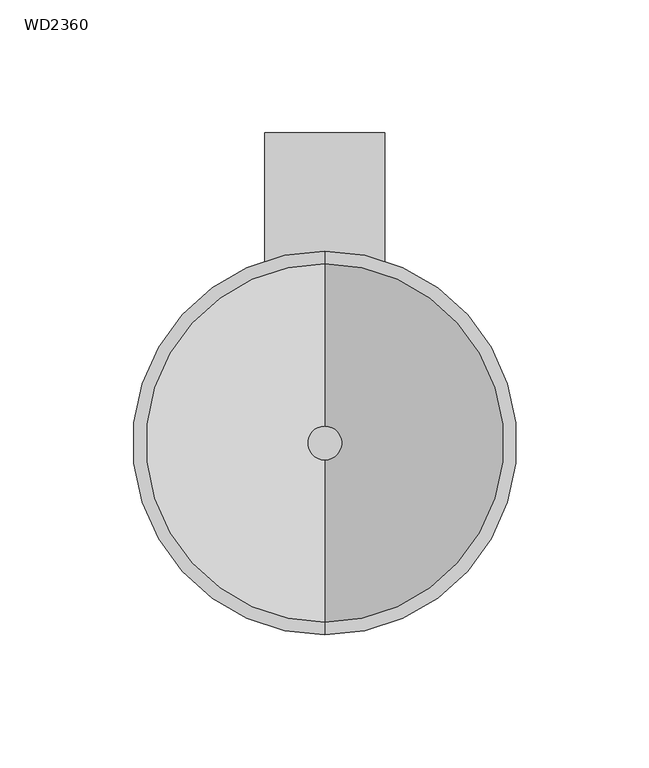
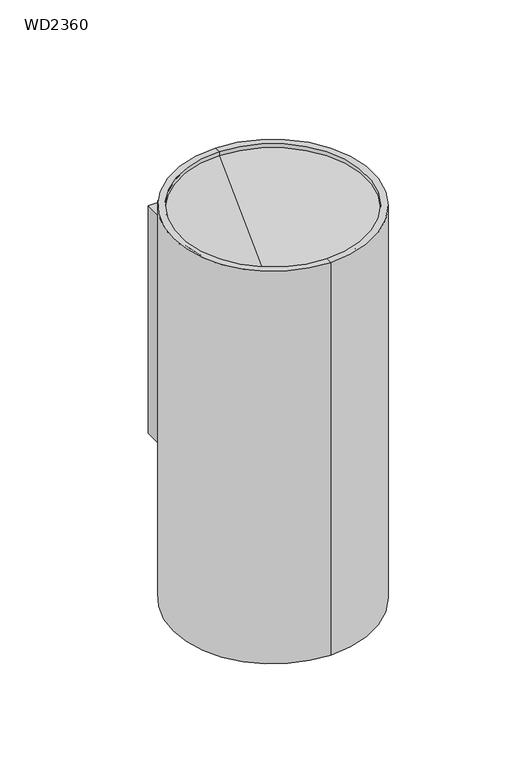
"""IFC4 building model written with IfcOpenShell, lengths in millimetres: light fixture geometry."""

from ifc_helpers import new_model, si_unit, point, frame, frame_2d, origin, origin_with_axes, place, context, project, spatial, polyline, circle_curve, trimmed, segment, composite_curve, outline, extrude, source, transform, mapped, element, save
from ifc_brep_helpers import plane_surface, cylinder_surface, revolved_surface, advanced_brep


def wd2360_6d3cfd78(model_context):
    return source(origin(), model_context, "Body", "SolidModel", [
        advanced_brep(
        [(0.0, -86.9805382, 236.9386318), (0.0, -99.6805382, 236.9386318), (0.0, -93.3305382, 236.9386318), (0.0, -93.3305382, 236.1028185), (0.0, -100.1193105, 236.1028185), (0.0, -86.5417659, 236.1028185), (0.0, -160.7324391, 295.4250706), (0.0, -25.9286374, 295.4250706), (0.0, -160.7324391, 297.0353933), (0.0, -25.9286374, 297.0353933)],
        [
            (0, 1, circle_curve(frame((0.0, -93.3305382, 236.9386318), z_axis=(0.0, 0.0, 1.0), x_axis=(0.0, -1.0, 0.0)), 6.35)),
            (1, 2),
            (2, 0),
            (1, 0, circle_curve(frame((0.0, -93.3305382, 236.9386318), z_axis=(0.0, 0.0, 1.0), x_axis=(0.0, -1.0, 0.0)), 6.35)),
            (3, 4),
            (4, 5, circle_curve(frame((0.0, -93.3305382, 236.1028185), z_axis=(0.0, 0.0, -1.0), x_axis=(0.0, -1.0, 0.0)), 6.7887723)),
            (5, 3),
            (5, 4, circle_curve(frame((0.0, -93.3305382, 236.1028185), z_axis=(0.0, 0.0, -1.0), x_axis=(0.0, -1.0, 0.0)), 6.7887723)),
            (4, 6),
            (6, 7, circle_curve(frame((0.0, -93.3305382, 295.4250706), z_axis=(0.0, 0.0, -1.0), x_axis=(0.0, -1.0, 0.0)), 67.4019009)),
            (7, 5),
            (7, 6, circle_curve(frame((0.0, -93.3305382, 295.4250706), z_axis=(0.0, 0.0, -1.0), x_axis=(0.0, -1.0, 0.0)), 67.4019009)),
            (6, 8),
            (8, 9, circle_curve(frame((0.0, -93.3305382, 297.0353933), z_axis=(0.0, 0.0, -1.0), x_axis=(0.0, -1.0, 0.0)), 67.4019009)),
            (9, 7),
            (9, 8, circle_curve(frame((0.0, -93.3305382, 297.0353933), z_axis=(0.0, 0.0, -1.0), x_axis=(0.0, -1.0, 0.0)), 67.4019009)),
            (8, 1),
            (0, 9),
        ],
        [
            plane_surface(frame((0.0, -93.3305382, 236.9386318), z_axis=(0.0, 0.0, 1.0), x_axis=(0.0, -1.0, 0.0))),
            plane_surface(frame((0.0, -93.3305382, 236.1028185), z_axis=(0.0, 0.0, -1.0), x_axis=(0.0, -1.0, 0.0))),
            revolved_surface(polyline([(0.0, -160.7324391, 295.4250706), (0.0, -100.1193105, 236.1028185)]), (0.0, -93.3305382, 167.4954411), (0.0, 0.0, -1.0)),
            cylinder_surface(frame((0.0, -93.3305382, 167.4954411), z_axis=(0.0, 0.0, -1.0), x_axis=(0.0, -1.0, 0.0)), 67.4019009),
            revolved_surface(polyline([(0.0, -99.6805382, 236.9386318), (0.0, -160.7324391, 297.0353933)]), (0.0, -93.3305382, 167.4954411), (0.0, 0.0, -1.0)),
        ],
        [
            (0, [[1, 2, 3]]),
            (0, [[4, -3, -2]]),
            (1, [[5, 6, 7]]),
            (1, [[-7, 8, -5]]),
            (2, [[-6, 9, 10, 11]]),
            (2, [[-8, -11, 12, -9]]),
            (3, [[-10, 13, 14, 15]]),
            (3, [[-12, -15, 16, -13]]),
            (4, [[-14, 17, -1, 18]]),
            (4, [[-16, -18, -4, -17]]),
        ],
    ),
        extrude(outline(composite_curve([segment(trimmed(circle_curve(frame_2d((0.0, -93.3305382)), 6.35), [point((0.0, -86.9805382))], [point((0.0, -99.6805382))], False, "CARTESIAN"), True, "CONTINUOUS"), segment(trimmed(circle_curve(frame_2d((0.0, -93.3305382)), 6.35), [point((0.0, -99.6805382))], [point((0.0, -86.9805382))], False, "CARTESIAN"), True, "CONTINUOUS")], self_intersect=False)), frame((0.0, 0.0, 236.9386318), z_axis=(0.0, 0.0, 1.0), x_axis=(1.0, 0.0, 0.0)), (0.0, 0.0, 1.0), 9.6578657),
        advanced_brep(
        [(0.0, -93.3305382, 63.0988682), (0.0, -99.6805382, 63.0988682), (0.0, -86.9805382, 63.0988682), (0.0, -86.5417659, 63.9346815), (0.0, -100.1193105, 63.9346815), (0.0, -93.3305382, 63.9346815), (0.0, -25.9286374, 4.6124294), (0.0, -160.7324391, 4.6124294), (0.0, -25.9286374, 3.0021067), (0.0, -160.7324391, 3.0021067)],
        [
            (0, 1),
            (1, 2, circle_curve(frame((0.0, -93.3305382, 63.0988682), z_axis=(0.0, 0.0, -1.0), x_axis=(0.0, -1.0, 0.0)), 6.35)),
            (2, 0),
            (2, 1, circle_curve(frame((0.0, -93.3305382, 63.0988682), z_axis=(0.0, 0.0, -1.0), x_axis=(0.0, -1.0, 0.0)), 6.35)),
            (3, 4, circle_curve(frame((0.0, -93.3305382, 63.9346815), z_axis=(0.0, 0.0, 1.0), x_axis=(0.0, -1.0, 0.0)), 6.7887723)),
            (4, 5),
            (5, 3),
            (4, 3, circle_curve(frame((0.0, -93.3305382, 63.9346815), z_axis=(0.0, 0.0, 1.0), x_axis=(0.0, -1.0, 0.0)), 6.7887723)),
            (6, 7, circle_curve(frame((0.0, -93.3305382, 4.6124294), z_axis=(0.0, 0.0, 1.0), x_axis=(0.0, -1.0, 0.0)), 67.4019009)),
            (7, 4),
            (3, 6),
            (7, 6, circle_curve(frame((0.0, -93.3305382, 4.6124294), z_axis=(0.0, 0.0, 1.0), x_axis=(0.0, -1.0, 0.0)), 67.4019009)),
            (8, 9, circle_curve(frame((0.0, -93.3305382, 3.0021067), z_axis=(0.0, 0.0, 1.0), x_axis=(0.0, -1.0, 0.0)), 67.4019009)),
            (9, 7),
            (6, 8),
            (9, 8, circle_curve(frame((0.0, -93.3305382, 3.0021067), z_axis=(0.0, 0.0, 1.0), x_axis=(0.0, -1.0, 0.0)), 67.4019009)),
            (1, 9),
            (8, 2),
        ],
        [
            plane_surface(frame((0.0, -93.3305382, 63.0988682), z_axis=(0.0, 0.0, -1.0), x_axis=(0.0, -1.0, 0.0))),
            plane_surface(frame((0.0, -93.3305382, 63.9346815), z_axis=(0.0, 0.0, 1.0), x_axis=(0.0, -1.0, 0.0))),
            revolved_surface(polyline([(0.0, -100.1193105, 63.9346815), (0.0, -160.7324391, 4.6124294)]), (0.0, -93.3305382, 132.5420589), (0.0, 0.0, -1.0)),
            cylinder_surface(frame((0.0, -93.3305382, 132.5420589), z_axis=(0.0, 0.0, -1.0), x_axis=(0.0, -1.0, 0.0)), 67.4019009),
            revolved_surface(polyline([(0.0, -160.7324391, 3.0021067), (0.0, -99.6805382, 63.0988682)]), (0.0, -93.3305382, 132.5420589), (0.0, 0.0, -1.0)),
        ],
        [
            (0, [[1, 2, 3]]),
            (0, [[-3, 4, -1]]),
            (1, [[5, 6, 7]]),
            (1, [[8, -7, -6]]),
            (2, [[9, 10, -5, 11]]),
            (2, [[12, -11, -8, -10]]),
            (3, [[13, 14, -9, 15]]),
            (3, [[16, -15, -12, -14]]),
            (4, [[-2, 17, -13, 18]]),
            (4, [[-4, -18, -16, -17]]),
        ],
    ),
        extrude(outline(composite_curve([segment(trimmed(circle_curve(frame_2d((0.0, -93.3305382)), 6.35), [point((-6.35, -93.3305382))], [point((6.35, -93.3305382))], False, "CARTESIAN"), True, "CONTINUOUS"), segment(trimmed(circle_curve(frame_2d((0.0, -93.3305382)), 6.35), [point((6.35, -93.3305382))], [point((-6.35, -93.3305382))], False, "CARTESIAN"), True, "CONTINUOUS")], self_intersect=False)), frame((0.0, 0.0, 53.4410025), z_axis=(0.0, 0.0, 1.0), x_axis=(1.0, 0.0, 0.0)), (0.0, 0.0, 1.0), 9.6578657),
        extrude(outline(composite_curve([segment(trimmed(circle_curve(frame_2d((0.0, -93.3305382)), 40.3958045), [point((-40.3958045, -93.3305382))], [point((40.3958045, -93.3305382))], False, "CARTESIAN"), True, "CONTINUOUS"), segment(trimmed(circle_curve(frame_2d((0.0, -93.3305382)), 40.3958045), [point((40.3958045, -93.3305382))], [point((-40.3958045, -93.3305382))], False, "CARTESIAN"), True, "CONTINUOUS")], self_intersect=False)), origin_with_axes(), (0.0, 0.0, 1.0), 3.0021067),
        extrude(outline(composite_curve([segment(polyline([(22.5964572, 23.3507118), (22.5964572, -27.1490076)]), True, "CONTINUOUS"), segment(trimmed(circle_curve(frame_2d((0.0, -93.3305382)), 69.9327882), [point((22.5964572, -27.1490076))], [point((-22.5964572, -27.1490076))], True, "CARTESIAN"), True, "CONTINUOUS"), segment(polyline([(-22.5964572, -27.1490076), (-22.5964572, 23.3507118), (22.5964572, 23.3507118)]), True, "CONTINUOUS")], self_intersect=False)), frame((0.0, 0.0, 63.0988682), z_axis=(0.0, 0.0, 1.0), x_axis=(1.0, 0.0, 0.0)), (0.0, 0.0, 1.0), 173.8397637),
        advanced_brep(
        [(0.0, -25.9286374, 128.0907374), (0.0, -160.7324391, 128.0907374), (0.0, -160.7324391, 0.0), (0.0, -25.9286374, 0.0), (0.0, -93.3305382, 128.0907374), (0.0, -21.0992882, 0.0), (0.0, -165.5617882, 0.0), (0.0, -165.5617882, 300.0375), (0.0, -21.0992882, 300.0375), (0.0, -25.9286374, 171.9467626), (0.0, -160.7324391, 171.9467626), (0.0, -93.3305382, 171.9467626), (0.0, -25.9286374, 300.0375), (0.0, -160.7324391, 300.0375)],
        [
            (0, 1, circle_curve(frame((0.0, -93.3305382, 128.0907374), z_axis=(0.0, 0.0, 1.0), x_axis=(0.0, -1.0, 0.0)), 67.4019009)),
            (1, 2),
            (2, 3, circle_curve(frame((0.0, -93.3305382, 0.0), z_axis=(0.0, 0.0, -1.0), x_axis=(0.0, -1.0, 0.0)), 67.4019009)),
            (3, 0),
            (1, 0, circle_curve(frame((0.0, -93.3305382, 128.0907374), z_axis=(0.0, 0.0, 1.0), x_axis=(0.0, -1.0, 0.0)), 67.4019009)),
            (3, 2, circle_curve(frame((0.0, -93.3305382, 0.0), z_axis=(0.0, 0.0, -1.0), x_axis=(0.0, -1.0, 0.0)), 67.4019009)),
            (4, 1),
            (0, 4),
            (5, 6, circle_curve(frame((0.0, -93.3305382, 0.0), z_axis=(0.0, 0.0, 1.0), x_axis=(0.0, -1.0, 0.0)), 72.23125)),
            (6, 7),
            (7, 8, circle_curve(frame((0.0, -93.3305382, 300.0375), z_axis=(0.0, 0.0, -1.0), x_axis=(0.0, -1.0, 0.0)), 72.23125)),
            (8, 5),
            (6, 5, circle_curve(frame((0.0, -93.3305382, 0.0), z_axis=(0.0, 0.0, 1.0), x_axis=(0.0, -1.0, 0.0)), 72.23125)),
            (8, 7, circle_curve(frame((0.0, -93.3305382, 300.0375), z_axis=(0.0, 0.0, -1.0), x_axis=(0.0, -1.0, 0.0)), 72.23125)),
            (2, 6),
            (5, 3),
            (9, 10, circle_curve(frame((0.0, -93.3305382, 171.9467626), z_axis=(0.0, 0.0, 1.0), x_axis=(0.0, -1.0, 0.0)), 67.4019009)),
            (10, 11),
            (11, 9),
            (10, 9, circle_curve(frame((0.0, -93.3305382, 171.9467626), z_axis=(0.0, 0.0, 1.0), x_axis=(0.0, -1.0, 0.0)), 67.4019009)),
            (12, 13, circle_curve(frame((0.0, -93.3305382, 300.0375), z_axis=(0.0, 0.0, 1.0), x_axis=(0.0, -1.0, 0.0)), 67.4019009)),
            (13, 10),
            (9, 12),
            (13, 12, circle_curve(frame((0.0, -93.3305382, 300.0375), z_axis=(0.0, 0.0, 1.0), x_axis=(0.0, -1.0, 0.0)), 67.4019009)),
            (7, 13),
            (12, 8),
        ],
        [
            revolved_surface(polyline([(0.0, -160.73243910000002, 0.0), (0.0, -160.73243910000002, 128.0907374)]), (0.0, -93.3305382, 171.9467626), (0.0, 0.0, -1.0)),
            plane_surface(frame((0.0, -93.3305382, 128.0907374), z_axis=(0.0, 0.0, -1.0), x_axis=(0.0, -1.0, 0.0))),
            cylinder_surface(frame((0.0, -93.3305382, 171.9467626), z_axis=(0.0, 0.0, -1.0), x_axis=(0.0, -1.0, 0.0)), 72.23125),
            plane_surface(frame((0.0, -93.3305382, 0.0), z_axis=(0.0, 0.0, -1.0), x_axis=(0.0, -1.0, 0.0))),
            plane_surface(frame((0.0, -93.3305382, 171.9467626), z_axis=(0.0, 0.0, 1.0), x_axis=(0.0, -1.0, 0.0))),
            revolved_surface(polyline([(0.0, -160.73243910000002, 171.9467626), (0.0, -160.73243910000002, 300.0375)]), (0.0, -93.3305382, 171.9467626), (0.0, 0.0, -1.0)),
            plane_surface(frame((0.0, -93.3305382, 300.0375), z_axis=(0.0, 0.0, 1.0), x_axis=(0.0, -1.0, 0.0))),
        ],
        [
            (0, [[1, 2, 3, 4]]),
            (0, [[5, -4, 6, -2]]),
            (1, [[7, -1, 8]]),
            (1, [[-8, -5, -7]]),
            (2, [[9, 10, 11, 12]]),
            (2, [[13, -12, 14, -10]]),
            (3, [[-3, 15, -9, 16]]),
            (3, [[-6, -16, -13, -15]]),
            (4, [[17, 18, 19]]),
            (4, [[20, -19, -18]]),
            (5, [[21, 22, -17, 23]]),
            (5, [[24, -23, -20, -22]]),
            (6, [[-11, 25, -21, 26]]),
            (6, [[-14, -26, -24, -25]]),
        ],
    ),
    ])


if __name__ == "__main__":
    model = new_model("IFC4")
    model_context = context("Model", 3, world=origin())
    ifc_project = project(units=[si_unit("LENGTHUNIT", "METRE", prefix="MILLI")], contexts=[model_context])
    site = spatial("IfcSite", under=ifc_project)
    building = spatial("IfcBuilding", under=site)
    placement = place(None, origin())
    wd2360_shape = wd2360_6d3cfd78(model_context)
    element("IfcLightFixture", 1, ObjectType="WD2360 : WD2360 6\" ROUND 2 DIRECTION WALL MOUNT (IP65) 2 x 1000lm_WD2360B-B02-T40", at=placement, inside=building, context=model_context, shape_type="MappedRepresentation", body=[
        mapped(wd2360_shape, transform((0.0, 0.0, 0.0), x_axis=(1.0, 0.0, 0.0), y_axis=(0.0, 1.0, 0.0), z_axis=(0.0, 0.0, 1.0))),
    ])
    save(model, "model.ifc")
